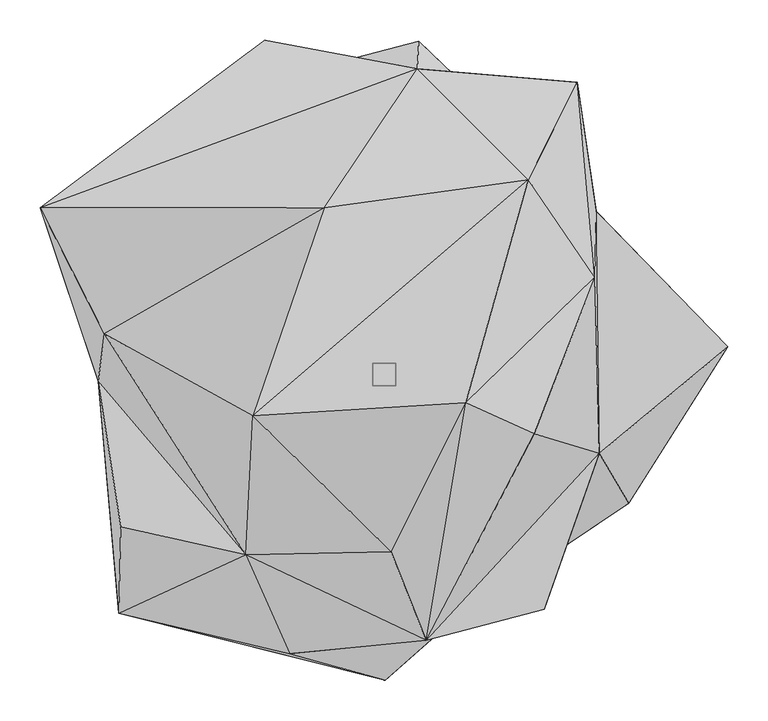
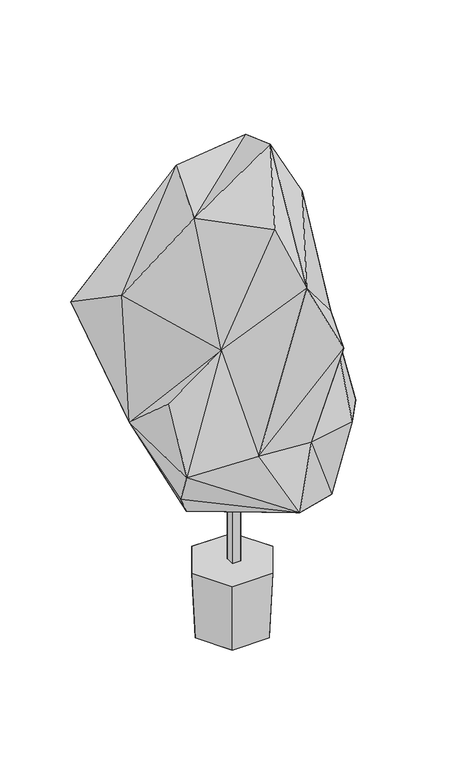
"""IFC4 building model written with IfcOpenShell, lengths in millimetres: geographic element geometry, Enscape AssetDefinition - Potted Plant 024 Fiddle-Leaf Fig : Enscape AssetDefinition - Potted Plant 024 Fiddle-Leaf Fig 2."""

from ifc_helpers import new_model, si_unit, origin, place, context, project, spatial, triangles, source, transform, mapped, element, save


def geographic_element_ab19c15e(model_context):
    return source(origin(), model_context, "Body", "Tessellation", [
        triangles([(-10.0807971, -16.7456451, 194.4717961), (18.3380896, -16.7456451, 194.4717961), (18.3380896, -16.7456451, 567.7626191), (-10.0807971, 11.6716815, 567.7626191), (-10.0807971, 11.6716815, 194.4717961), (-10.0807971, -16.7456451, 567.7626191), (18.3380896, 11.6716815, 567.7626191), (18.3380896, 11.6716815, 194.4717961), (-83.8312657, 379.0033195, 743.6277929), (142.1881142, 175.1001769, 505.5449052), (47.1691412, 413.6015347, 898.0387167), (-213.1970703, 216.03536, 726.4465742), (-145.2746355, 414.7630918, 1035.5884604), (-205.562707, -87.682802, 532.7741661), (45.2738172, 379.0033195, 1177.301976), (-425.5620692, 205.6688779, 1177.301976), (-71.0386281, 205.6688779, 1539.6768047), (-345.2606844, 48.2526234, 1268.6379707), (-160.051586, -54.3335749, 1539.6768047), (12.8941155, -224.0584894, 1540.6337231), (105.5915563, -37.7097077, 1700.000013), (183.499537, 240.4231882, 1539.6768047), (245.2005129, 362.0984648, 1282.4438141), (267.098177, 119.0024292, 1358.4893177), (191.0090169, -76.8151423, 1526.242305), (56.6426227, -334.5554149, 1384.5835098), (-113.6958399, -350.9216397, 856.6195152), (268.5454724, 201.3333685, 1183.8997564), (272.6108492, -100.7392816, 1086.7090319), (203.7719915, -295.8137208, 1095.484659), (309.4541127, -163.108467, 716.4829382), (84.2840269, -314.3344834, 814.928746), (-327.2176723, -300.40997, 822.9034046), (5.280046, -384.278688, 633.7413317), (234.2548147, -174.3289485, 492.3073411), (433.0589953, 32.3344249, 633.7413317), (272.6108492, 32.3344249, 461.1437636), (-353.0933458, -10.7771015, 854.1309317), (-317.6879488, -248.7476438, 712.957572), (-168.5742853, -227.6680256, 1177.301976), (-324.8071363, -192.334481, 1021.4141802), (-62.1474829, 107.9271423, -0.0827447), (-124.3480422, 0.1920301, -0.0827447), (-62.1474829, -107.5430814, -0.0827447), (-136.4631094, 0.1920301, 234.3937779), (62.2536492, 107.9271423, -0.0827447), (-68.2050211, 118.4185349, 234.3937779), (-68.2050211, -118.0344741, 234.3937779), (136.5692621, 0.1920301, 234.3937779), (68.3111874, -118.0344741, 234.3937779), (62.2536492, -107.5430814, -0.0827447), (68.3111874, 118.4185349, 234.3937779), (124.454213, 0.1920301, -0.0827447)], [[49, 52, 47], [47, 52, 46], [52, 49, 53], [53, 46, 52], [51, 53, 49], [49, 50, 51], [50, 49, 48], [49, 47, 48], [47, 45, 48], [45, 47, 42], [46, 42, 47], [42, 46, 53], [48, 45, 43], [42, 43, 45], [50, 48, 44], [44, 51, 50], [43, 44, 48], [51, 44, 53], [44, 42, 53], [44, 43, 42], [40, 41, 33], [38, 33, 41], [40, 38, 41], [38, 14, 39], [33, 38, 39], [39, 14, 34], [14, 10, 34], [34, 33, 39], [37, 34, 10], [34, 37, 35], [10, 36, 37], [36, 35, 37], [31, 35, 36], [35, 32, 34], [32, 35, 31], [32, 27, 34], [27, 40, 33], [27, 33, 34], [30, 27, 32], [31, 29, 32], [36, 29, 31], [29, 30, 32], [28, 29, 36], [28, 15, 23], [23, 24, 28], [28, 24, 29], [24, 25, 29], [27, 30, 26], [40, 27, 26], [29, 26, 30], [26, 29, 25], [20, 40, 26], [25, 21, 26], [24, 21, 25], [21, 20, 26], [22, 24, 23], [22, 21, 24], [22, 23, 15], [20, 21, 19], [19, 21, 22], [20, 19, 40], [19, 18, 40], [40, 18, 38], [18, 19, 17], [17, 22, 15], [19, 22, 17], [18, 16, 38], [16, 18, 17], [17, 15, 16], [16, 12, 38], [14, 12, 10], [38, 12, 14], [16, 15, 13], [16, 13, 12], [13, 15, 9], [12, 9, 10], [13, 9, 12], [28, 36, 11], [15, 28, 11], [11, 36, 10], [15, 11, 9], [11, 10, 9], [2, 8, 7], [8, 5, 4], [4, 7, 8], [5, 1, 6], [6, 4, 5], [7, 3, 2], [1, 2, 3], [3, 6, 1]], closed=False),
    ])


if __name__ == "__main__":
    model = new_model("IFC4")
    model_context = context("Model", 3, world=origin())
    ifc_project = project(units=[si_unit("LENGTHUNIT", "METRE", prefix="MILLI")], contexts=[model_context])
    site = spatial("IfcSite", under=ifc_project)
    building = spatial("IfcBuilding", under=site)
    placement = place(None, origin())
    geographic_element_shape = geographic_element_ab19c15e(model_context)
    element("IfcGeographicElement", 1, ObjectType="Enscape AssetDefinition - Potted Plant 024 Fiddle-Leaf Fig : Enscape AssetDefinition - Potted Plant 024 Fiddle-Leaf Fig 2", at=placement, inside=building, context=model_context, shape_type="MappedRepresentation", body=[
        mapped(geographic_element_shape, transform((0.0, 0.0, 0.0), x_axis=(1.0, 0.0, 0.0), y_axis=(0.0, 1.0, 0.0), z_axis=(0.0, 0.0, 1.0))),
    ])
    save(model, "model.ifc")
